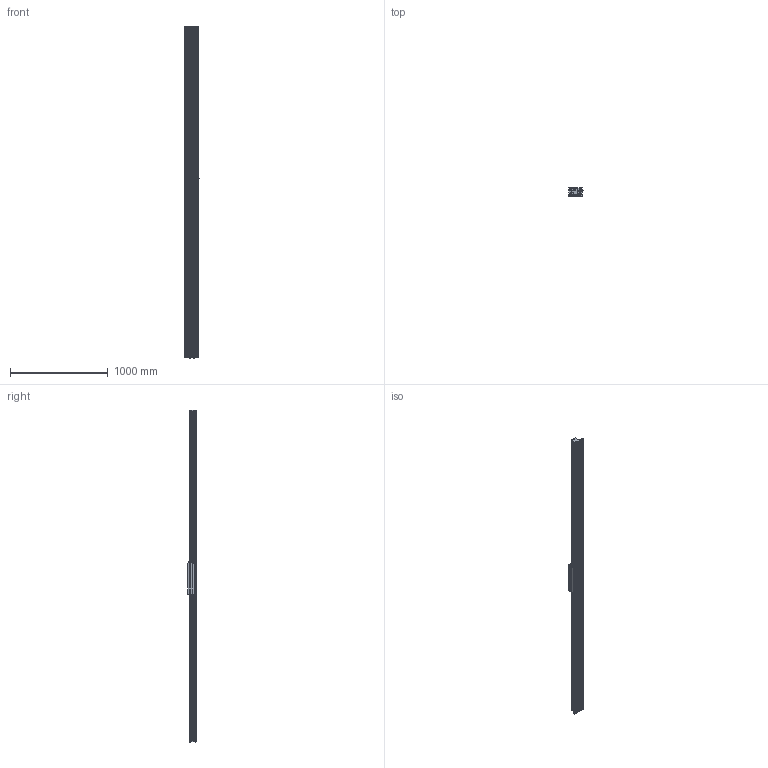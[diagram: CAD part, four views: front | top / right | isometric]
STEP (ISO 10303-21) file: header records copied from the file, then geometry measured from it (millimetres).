
FILE_DESCRIPTION (( 'STEP AP214' ), '1' );
FILE_NAME ('SINADRIVES Linear motor stage MLL20400XS-XX-1-0-ST-00-03380.STEP', '2015-07-06T12:00:06', ( 'Tecnico' ), ( '' ), 'SwSTEP 2.0', 'SolidWorks 2009', '' );
FILE_SCHEMA (( 'AUTOMOTIVE_DESIGN' ));
Length unit declared in the file: millimetre
Products named in the file (7): SINADRIVES PROFILE MLL2XXXX-3380; SINADRIVES CARRIAGE MLL20400XS-1; CARRIAGE MLL20400; Connector power+signal Y-tec 45; SINADRIVES ENDBLOCK MLL2; SINADRIVES ENDBLOCK MLL2-2; SINADRIVES Linear motor stage MLL20400XS-XX-1-0-ST-00-03380
Assembly tree (6 placements, depth 3):
  SINADRIVES Linear motor stage MLL20400XS-XX-1-0-ST-00-03380
    SINADRIVES ENDBLOCK MLL2-2
    SINADRIVES ENDBLOCK MLL2
    SINADRIVES PROFILE MLL2XXXX-3380
    SINADRIVES CARRIAGE MLL20400XS-1
      Connector power+signal Y-tec 45
      CARRIAGE MLL20400
Bounding box: 144.43 x 91 x 3404.8 mm (x, y, z)
Volume: 15339350.3 mm3; surface area: 2630623.3 mm2
Topology: 2 solids, 42 shells, 950 faces, 2640 edges, 1730 vertices
Faces by surface type: plane 445, cylinder 302, bspline 79, cone 70, torus 42, sphere 12
Entity records: 40587 total; most frequent: CARTESIAN_POINT 8656, ORIENTED_EDGE 5024, DIRECTION 4947, EDGE_CURVE 2622, AXIS2_PLACEMENT_3D 1781, VERTEX_POINT 1730, VECTOR 1385, LINE 1385
